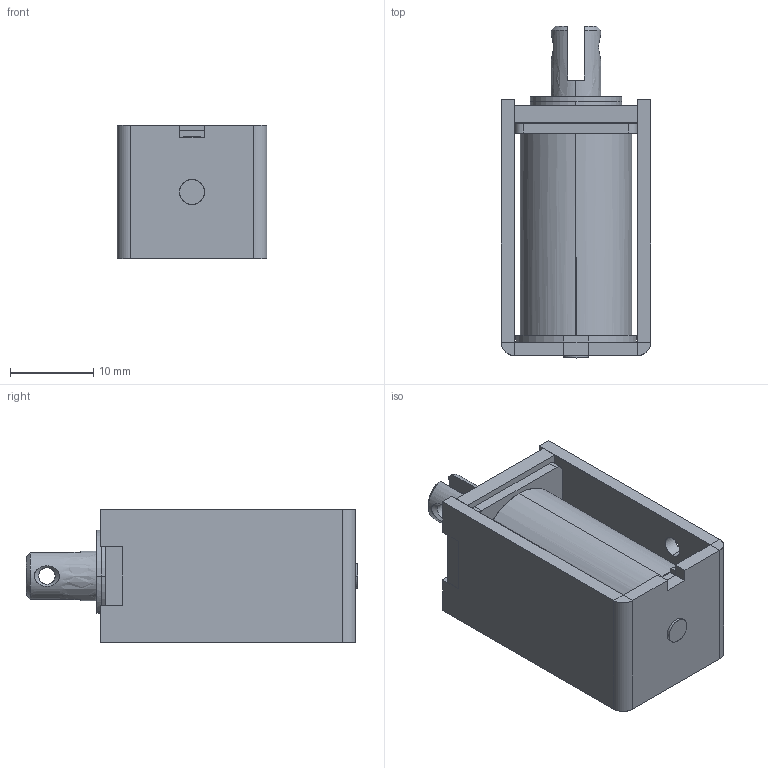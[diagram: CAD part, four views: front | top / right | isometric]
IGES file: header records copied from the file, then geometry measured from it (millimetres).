
Start section: SolidWorks IGES file using analytic representation for surfaces
Global section: file name: L:\カタログ\web用3Dデータ\CA0630\3D_CA0630A\w_ca0630A.IGS; native system: SolidWorks 2014; preprocessor: SolidWorks 2014; author: yakata; date: 150526.100848; units: millimetre
Bounding box: 18 x 39.89 x 16 mm (x, y, z)
Surface area: 14056.4 mm2 (no closed solid volume)
Topology: 0 solids, 0 shells, 274 faces, 3965 edges, 3965 vertices
Faces by surface type: bspline 143, revolution 131
